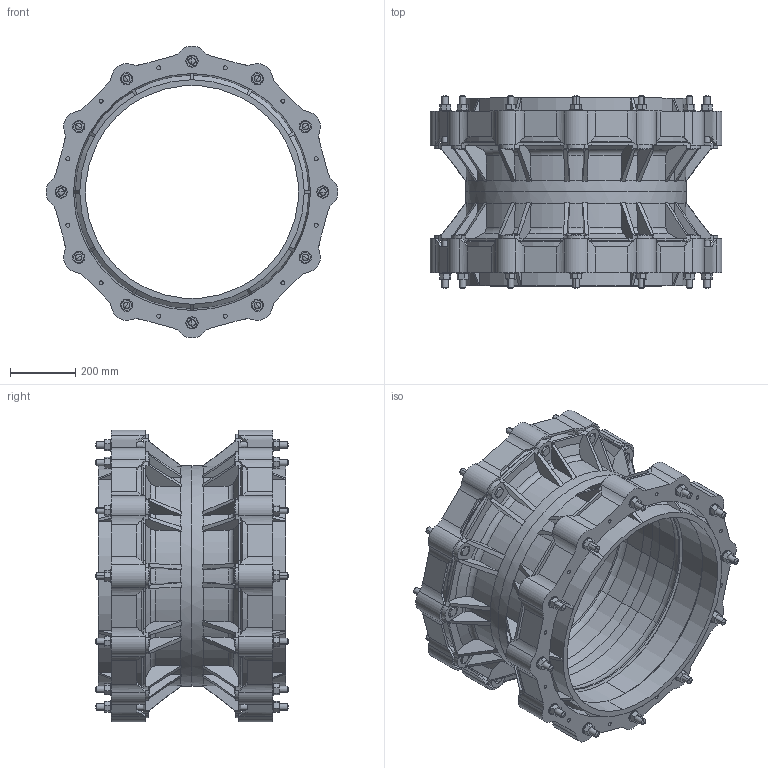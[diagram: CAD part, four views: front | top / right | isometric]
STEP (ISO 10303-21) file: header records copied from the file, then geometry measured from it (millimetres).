
FILE_DESCRIPTION((''),'2;1');
FILE_NAME('BIM_13198_19_ASM','2020-07-02T',('MReader'),(''),'CREO PARAMETRIC BY PTC INC, 2016130','CREO PARAMETRIC BY PTC INC, 2016130','');
FILE_SCHEMA(('CONFIG_CONTROL_DESIGN'));
Length unit declared in the file: millimetre
Products named in the file (4): BIM_13419_3; 604-648_GASKET_BIM; BIM_13417_4; BIM_13198_19_ASM
Assembly tree (5 placements, depth 2):
  BIM_13198_19_ASM
    BIM_13419_3
    604-648_GASKET_BIM  x2
    BIM_13417_4  x2
Bounding box: 894 x 589 x 894 mm (x, y, z)
Volume: 41814745.1 mm3; surface area: 6415199 mm2
Topology: 5 solids, 5 shells, 1890 faces, 5020 edges, 3264 vertices
Faces by surface type: plane 902, cylinder 564, cone 324, torus 52, sphere 48
Entity records: 47722 total; most frequent: CARTESIAN_POINT 10945, ORIENTED_EDGE 7808, DIRECTION 7548, EDGE_CURVE 3904, AXIS2_PLACEMENT_3D 2833, VERTEX_POINT 2570, VECTOR 1882, LINE 1882
